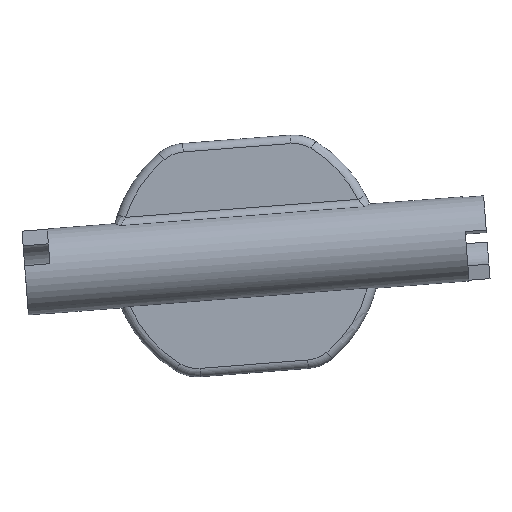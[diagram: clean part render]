
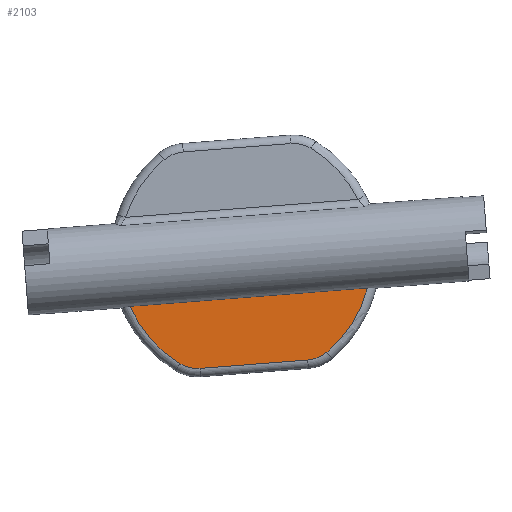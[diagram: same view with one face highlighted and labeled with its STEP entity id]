
A CAD part, front view. The second image highlights one B-rep face of the part: STEP entity #2103.
In plain terms, the highlighted planar face has unit normal (0, -1, 0).
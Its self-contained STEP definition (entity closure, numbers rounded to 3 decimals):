
#559=CARTESIAN_POINT('',(1155.857,-1.,-98.136));
#560=DIRECTION('',(0.,1.,0.));
#561=DIRECTION('',(-0.521,0.,-0.853));
#562=AXIS2_PLACEMENT_3D('',#559,#560,#561);
#564=DIRECTION('',(-0.997,0.,-0.077));
#565=VECTOR('',#564,28.226);
#566=CARTESIAN_POINT('',(1170.307,-1.,-101.93));
#567=LINE('',#566,#565);
#568=CARTESIAN_POINT('',(1155.857,-1.,-98.136));
#569=DIRECTION('',(0.,1.,0.));
#570=DIRECTION('',(0.967,0.,-0.254));
#571=AXIS2_PLACEMENT_3D('',#568,#569,#570);
#573=CARTESIAN_POINT('',(1162.929,-1.,-106.482));
#574=DIRECTION('',(0.,1.,0.));
#575=DIRECTION('',(0.646,0.,-0.763));
#576=AXIS2_PLACEMENT_3D('',#573,#574,#575);
#578=DIRECTION('',(-0.997,0.,-0.077));
#579=VECTOR('',#578,12.813);
#580=CARTESIAN_POINT('',(1163.238,-1.,-110.47));
#581=LINE('',#580,#579);
#582=CARTESIAN_POINT('',(1150.155,-1.,-107.472));
#583=DIRECTION('',(0.,1.,0.));
#584=DIRECTION('',(0.077,0.,-0.997));
#585=AXIS2_PLACEMENT_3D('',#582,#583,#584);
#1439=CARTESIAN_POINT('',(1148.07,-1.,-110.885));
#1440=CARTESIAN_POINT('',(1142.164,-1.,-104.11));
#1441=VERTEX_POINT('',#1439);
#1442=VERTEX_POINT('',#1440);
#1447=CARTESIAN_POINT('',(1150.464,-1.,-111.46));
#1448=VERTEX_POINT('',#1447);
#1449=CARTESIAN_POINT('',(1163.238,-1.,-110.47));
#1450=VERTEX_POINT('',#1449);
#1451=CARTESIAN_POINT('',(1165.515,-1.,-109.533));
#1452=VERTEX_POINT('',#1451);
#1457=CARTESIAN_POINT('',(1170.307,-1.,-101.93));
#1458=VERTEX_POINT('',#1457);
#2085=CARTESIAN_POINT('',(0.,-1.,0.));
#2086=DIRECTION('',(0.,-1.,0.));
#2087=DIRECTION('',(1.,0.,0.));
#2088=AXIS2_PLACEMENT_3D('',#2085,#2086,#2087);
#2089=PLANE('',#2088);
#2091=ORIENTED_EDGE('',*,*,#2090,.T.);
#2093=ORIENTED_EDGE('',*,*,#2092,.F.);
#2095=ORIENTED_EDGE('',*,*,#2094,.T.);
#2097=ORIENTED_EDGE('',*,*,#2096,.T.);
#2099=ORIENTED_EDGE('',*,*,#2098,.T.);
#2100=ORIENTED_EDGE('',*,*,#2053,.T.);
#2101=EDGE_LOOP('',(#2091,#2093,#2095,#2097,#2099,#2100));
#2102=FACE_OUTER_BOUND('',#2101,.F.);
#2103=ADVANCED_FACE('',(#2102),#2089,.T.);
#563=CIRCLE('',#562,14.939);
#572=CIRCLE('',#571,14.939);
#577=CIRCLE('',#576,4.);
#586=CIRCLE('',#585,4.);
#2053=EDGE_CURVE('',#1448,#1441,#586,.T.);
#2090=EDGE_CURVE('',#1441,#1442,#563,.T.);
#2092=EDGE_CURVE('',#1458,#1442,#567,.T.);
#2094=EDGE_CURVE('',#1458,#1452,#572,.T.);
#2096=EDGE_CURVE('',#1452,#1450,#577,.T.);
#2098=EDGE_CURVE('',#1450,#1448,#581,.T.);
